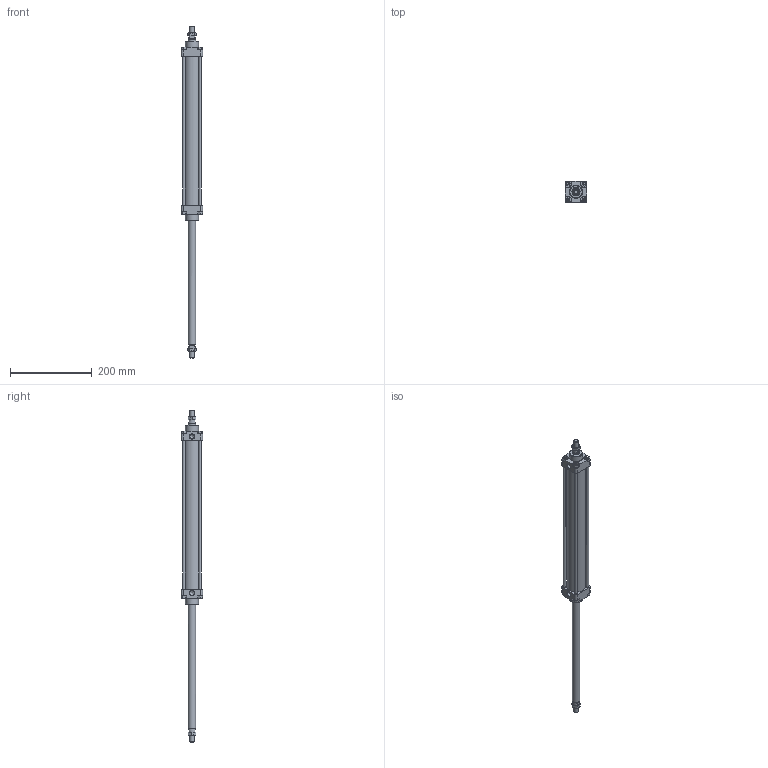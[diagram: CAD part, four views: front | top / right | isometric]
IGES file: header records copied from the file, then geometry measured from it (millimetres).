
Global section: file name: 130#_040_0300_02A; native system: Autodesk Inventor 2014; preprocessor: unknown; author: A. Manieri; date: 20161123.143758; units: millimetre
Bounding box: 52 x 52 x 814 mm (x, y, z)
Volume: 544322.7 mm3; surface area: 211769.5 mm2
Topology: 10 solids, 10 shells, 187 faces, 467 edges, 314 vertices
Faces by surface type: bspline 187
